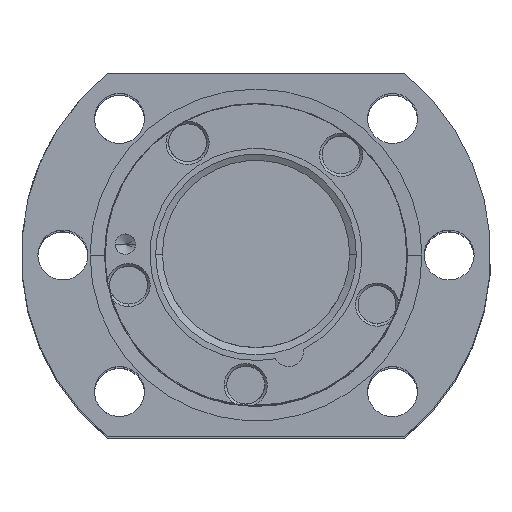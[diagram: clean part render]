
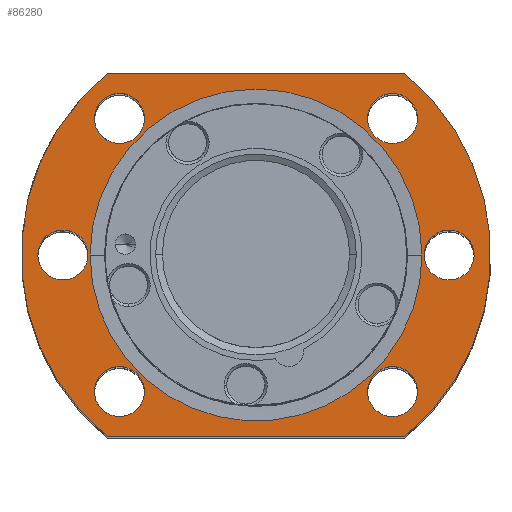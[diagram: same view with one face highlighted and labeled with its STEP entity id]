
A CAD part, top view. The second image highlights one B-rep face of the part: STEP entity #86280.
In plain terms, the highlighted planar face has unit normal (0, 0, 1).
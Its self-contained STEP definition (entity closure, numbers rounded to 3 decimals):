
#50260=CARTESIAN_POINT('',(-19.621,24.,221.));
#50270=VERTEX_POINT('',#50260);
#50300=CARTESIAN_POINT('',(0.,0.,
221.));
#50310=DIRECTION('',(0.,0.,-1.));
#50320=DIRECTION('',(-1.,0.,0.));
#50330=AXIS2_PLACEMENT_3D('',#50300,#50310,#50320);
#50340=CIRCLE('',#50330,31.);
#50350=CARTESIAN_POINT('',(-19.621,-24.,221.));
#50360=VERTEX_POINT('',#50350);
#50370=EDGE_CURVE('',#50360,#50270,#50340,.T.);
#55390=CARTESIAN_POINT('',(19.621,24.,221.));
#55400=VERTEX_POINT('',#55390);
#55430=CARTESIAN_POINT('',(0.,24.,221.));
#55440=DIRECTION('',(1.,0.,0.));
#55450=VECTOR('',#55440,1.);
#55460=LINE('',#55430,#55450);
#55470=EDGE_CURVE('',#50270,#55400,#55460,.T.);
#55680=CARTESIAN_POINT('',(21.331,18.031,221.));
#55690=VERTEX_POINT('',#55680);
#55740=CARTESIAN_POINT('',(18.031,18.031,221.));
#55750=DIRECTION('',(0.,0.,-1.));
#55760=DIRECTION('',(-1.,0.,0.));
#55770=AXIS2_PLACEMENT_3D('',#55740,#55750,#55760);
#55780=CIRCLE('',#55770,3.3);
#55790=CARTESIAN_POINT('',(16.768,14.982,221.));
#55800=VERTEX_POINT('',#55790);
#55810=EDGE_CURVE('',#55690,#55800,#55780,.T.);
#55830=CARTESIAN_POINT('',(14.731,18.031,221.));
#55840=VERTEX_POINT('',#55830);
#55850=EDGE_CURVE('',#55800,#55840,#55780,.T.);
#56780=CARTESIAN_POINT('',(19.621,-24.,221.));
#56790=VERTEX_POINT('',#56780);
#56890=CARTESIAN_POINT('',(0.,-24.,221.));
#56900=DIRECTION('',(1.,-0.,0.));
#56910=VECTOR('',#56900,1.);
#56920=LINE('',#56890,#56910);
#56930=EDGE_CURVE('',#50360,#56790,#56920,.T.);
#58300=CARTESIAN_POINT('',(0.,0.,
221.));
#58310=DIRECTION('',(0.,0.,-1.));
#58320=DIRECTION('',(-1.,0.,0.));
#58330=AXIS2_PLACEMENT_3D('',#58300,#58310,#58320);
#58340=CIRCLE('',#58330,31.);
#58350=EDGE_CURVE('',#55400,#56790,#58340,.T.);
#58570=CARTESIAN_POINT('',(-22.2,0.,221.));
#58580=VERTEX_POINT('',#58570);
#58630=CARTESIAN_POINT('',(-25.5,0.,221.));
#58640=DIRECTION('',(0.,0.,-1.));
#58650=DIRECTION('',(-1.,0.,0.));
#58660=AXIS2_PLACEMENT_3D('',#58630,#58640,#58650);
#58670=CIRCLE('',#58660,3.3);
#58680=CARTESIAN_POINT('',(-26.763,-3.049,221.));
#58690=VERTEX_POINT('',#58680);
#58700=EDGE_CURVE('',#58580,#58690,#58670,.T.);
#58720=CARTESIAN_POINT('',(-28.8,0.,221.));
#58730=VERTEX_POINT('',#58720);
#58740=EDGE_CURVE('',#58690,#58730,#58670,.T.);
#59390=CARTESIAN_POINT('',(-18.031,-18.031,221.));
#59400=DIRECTION('',(0.,0.,-1.));
#59410=DIRECTION('',(-1.,0.,0.));
#59420=AXIS2_PLACEMENT_3D('',#59390,#59400,#59410);
#59430=CIRCLE('',#59420,3.3);
#59440=CARTESIAN_POINT('',(-16.768,-14.982,221.));
#59450=VERTEX_POINT('',#59440);
#59460=CARTESIAN_POINT('',(-14.731,-18.031,221.));
#59470=VERTEX_POINT('',#59460);
#59480=EDGE_CURVE('',#59450,#59470,#59430,.T.);
#59710=CARTESIAN_POINT('',(-21.331,-18.031,221.));
#59720=VERTEX_POINT('',#59710);
#59750=EDGE_CURVE('',#59720,#59450,#59430,.T.);
#59920=CARTESIAN_POINT('',(18.031,-18.031,221.));
#59930=DIRECTION('',(0.,0.,-1.));
#59940=DIRECTION('',(-1.,0.,0.));
#59950=AXIS2_PLACEMENT_3D('',#59920,#59930,#59940);
#59960=CIRCLE('',#59950,3.3);
#59970=CARTESIAN_POINT('',(16.768,-21.08,221.));
#59980=VERTEX_POINT('',#59970);
#59990=CARTESIAN_POINT('',(14.731,-18.031,221.));
#60000=VERTEX_POINT('',#59990);
#60010=EDGE_CURVE('',#59980,#60000,#59960,.T.);
#60280=CARTESIAN_POINT('',(21.331,-18.031,221.));
#60290=VERTEX_POINT('',#60280);
#60320=EDGE_CURVE('',#60290,#59980,#59960,.T.);
#60490=CARTESIAN_POINT('',(-18.031,18.031,221.));
#60500=DIRECTION('',(0.,0.,-1.));
#60510=DIRECTION('',(-1.,0.,0.));
#60520=AXIS2_PLACEMENT_3D('',#60490,#60500,#60510);
#60530=CIRCLE('',#60520,3.3);
#60540=CARTESIAN_POINT('',(-16.768,21.08,221.));
#60550=VERTEX_POINT('',#60540);
#60560=CARTESIAN_POINT('',(-14.731,18.031,221.));
#60570=VERTEX_POINT('',#60560);
#60580=EDGE_CURVE('',#60550,#60570,#60530,.T.);
#60810=CARTESIAN_POINT('',(-21.331,18.031,221.));
#60820=VERTEX_POINT('',#60810);
#60850=EDGE_CURVE('',#60820,#60550,#60530,.T.);
#61020=CARTESIAN_POINT('',(25.5,0.,221.));
#61030=DIRECTION('',(0.,0.,-1.));
#61040=DIRECTION('',(-1.,0.,0.));
#61050=AXIS2_PLACEMENT_3D('',#61020,#61030,#61040);
#61060=CIRCLE('',#61050,3.3);
#61070=CARTESIAN_POINT('',(26.763,3.049,221.));
#61080=VERTEX_POINT('',#61070);
#61090=CARTESIAN_POINT('',(28.8,0.,221.));
#61100=VERTEX_POINT('',#61090);
#61110=EDGE_CURVE('',#61080,#61100,#61060,.T.);
#61380=CARTESIAN_POINT('',(22.2,0.,221.));
#61390=VERTEX_POINT('',#61380);
#61420=EDGE_CURVE('',#61390,#61080,#61060,.T.);
#83620=CARTESIAN_POINT('',(21.913,0.,221.));
#83630=VERTEX_POINT('',#83620);
#83660=CARTESIAN_POINT('',(0.,0.,221.
));
#83670=DIRECTION('',(0.,0.,1.));
#83680=DIRECTION('',(1.,0.,0.));
#83690=AXIS2_PLACEMENT_3D('',#83660,#83670,#83680);
#83700=CIRCLE('',#83690,21.913);
#83710=CARTESIAN_POINT('',(-8.386,-20.245,221.));
#83720=VERTEX_POINT('',#83710);
#83730=EDGE_CURVE('',#83720,#83630,#83700,.T.);
#83750=CARTESIAN_POINT('',(-21.913,0.,221.))
;
#83760=VERTEX_POINT('',#83750);
#83770=EDGE_CURVE('',#83760,#83720,#83700,.T.);
#85750=CARTESIAN_POINT('',(58.773,-34.357,221.));
#85760=DIRECTION('',(0.,0.,-1.));
#85770=DIRECTION('',(-1.,0.,-0.));
#85780=AXIS2_PLACEMENT_3D('',#85750,#85760,#85770);
#85790=PLANE('',#85780);
#85800=ORIENTED_EDGE('',*,*,#55470,.F.);
#85810=ORIENTED_EDGE('',*,*,#58350,.F.);
#85820=ORIENTED_EDGE('',*,*,#56930,.T.);
#85830=ORIENTED_EDGE('',*,*,#50370,.F.);
#85840=EDGE_LOOP('',(#85830,#85820,#85810,#85800));
#85850=FACE_OUTER_BOUND('',#85840,.T.);
#85860=EDGE_CURVE('',#61100,#61390,#61060,.T.);
#85870=ORIENTED_EDGE('',*,*,#85860,.T.);
#85880=ORIENTED_EDGE('',*,*,#61110,.T.);
#85890=ORIENTED_EDGE('',*,*,#61420,.T.);
#85900=EDGE_LOOP('',(#85890,#85880,#85870));
#85910=FACE_BOUND('',#85900,.T.);
#85920=EDGE_CURVE('',#55840,#55690,#55780,.T.);
#85930=ORIENTED_EDGE('',*,*,#85920,.T.);
#85940=ORIENTED_EDGE('',*,*,#55850,.T.);
#85950=ORIENTED_EDGE('',*,*,#55810,.T.);
#85960=EDGE_LOOP('',(#85950,#85940,#85930));
#85970=FACE_BOUND('',#85960,.T.);
#85980=EDGE_CURVE('',#59470,#59720,#59430,.T.);
#85990=ORIENTED_EDGE('',*,*,#85980,.T.);
#86000=ORIENTED_EDGE('',*,*,#59480,.T.);
#86010=ORIENTED_EDGE('',*,*,#59750,.T.);
#86020=EDGE_LOOP('',(#86010,#86000,#85990));
#86030=FACE_BOUND('',#86020,.T.);
#86040=EDGE_CURVE('',#58730,#58580,#58670,.T.);
#86050=ORIENTED_EDGE('',*,*,#86040,.T.);
#86060=ORIENTED_EDGE('',*,*,#58740,.T.);
#86070=ORIENTED_EDGE('',*,*,#58700,.T.);
#86080=EDGE_LOOP('',(#86070,#86060,#86050));
#86090=FACE_BOUND('',#86080,.T.);
#86100=EDGE_CURVE('',#60000,#60290,#59960,.T.);
#86110=ORIENTED_EDGE('',*,*,#86100,.T.);
#86120=ORIENTED_EDGE('',*,*,#60010,.T.);
#86130=ORIENTED_EDGE('',*,*,#60320,.T.);
#86140=EDGE_LOOP('',(#86130,#86120,#86110));
#86150=FACE_BOUND('',#86140,.T.);
#86160=EDGE_CURVE('',#60570,#60820,#60530,.T.);
#86170=ORIENTED_EDGE('',*,*,#86160,.T.);
#86180=ORIENTED_EDGE('',*,*,#60580,.T.);
#86190=ORIENTED_EDGE('',*,*,#60850,.T.);
#86200=EDGE_LOOP('',(#86190,#86180,#86170));
#86210=FACE_BOUND('',#86200,.T.);
#86220=ORIENTED_EDGE('',*,*,#83730,.F.);
#86230=EDGE_CURVE('',#83630,#83760,#83700,.T.);
#86240=ORIENTED_EDGE('',*,*,#86230,.F.);
#86250=ORIENTED_EDGE('',*,*,#83770,.F.);
#86260=EDGE_LOOP('',(#86250,#86240,#86220));
#86270=FACE_BOUND('',#86260,.T.);
#86280=ADVANCED_FACE('',(#85850,#85910,#85970,#86030,#86090,#86150,
#86210,#86270),#85790,.F.);
